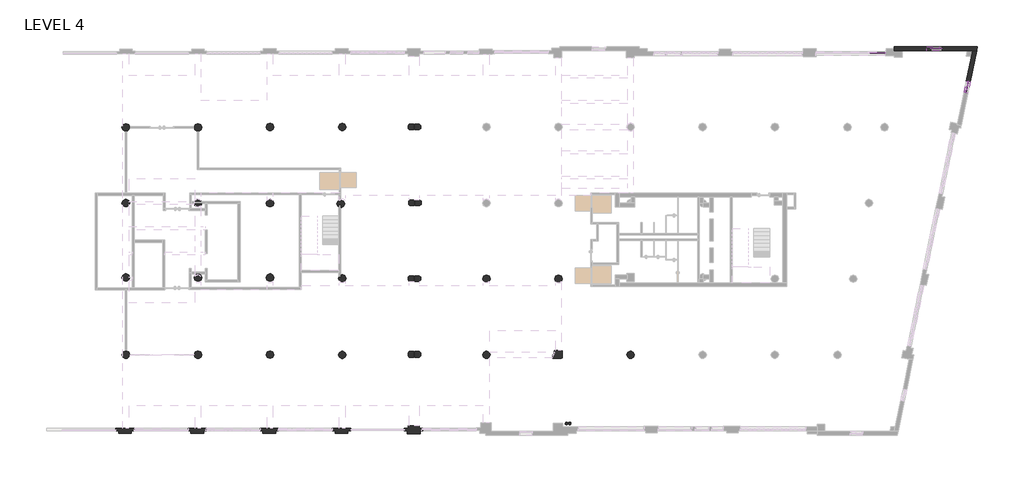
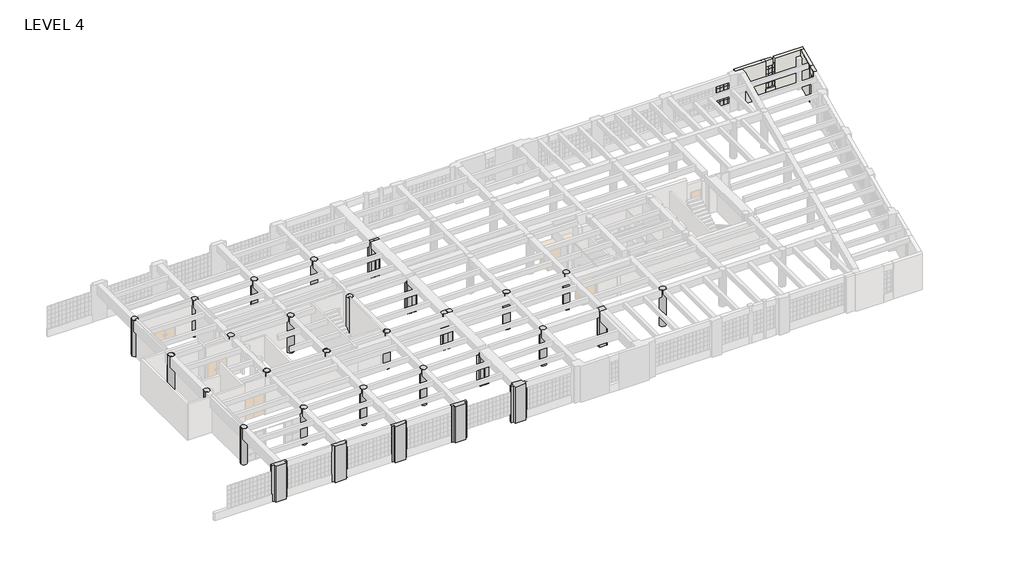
# One storey, part 25 of 26: 38 members, 38 plates, 32 columns, 6 walls.
"""IFC4 building model written with IfcOpenShell, lengths in millimetres."""

from ifc_helpers import new_model, si_unit, point, frame, frame_2d, origin, origin_with_axes, place, context, project, spatial, polyline, circle_curve, trimmed, segment, composite_curve, outline, extrude, faceted_brep, transform, mapped, element, save
from components import columns_2_columns_1_0376ba0d, columns_20_columns_1_f9736cae, columns_21_columns_1_8a92f6ab, columns_22_columns_1_6d6d6978, columns_23_columns_1_dc9aa2cf, columns_24_columns_24_349f5db5, columns_6_columns_1_e790766a, column_10b8ecd9, column_0297f9bf, member_3c10d71f, member_3d4b608b, member_653bb31e, member_038dcf1c, member_d9fec558, member_0e6c94ff, member_9ec6e97d, member_6e26db71, member_f7ce43e5, member_cc7f9b0f, system_panel_glazed_656c6057, system_panel_glazed_d8d4181f, system_panel_glazed_44deb75c, system_panel_glazed_c51966c8, system_panel_glazed_3772fe24, system_panel_glazed_6a4aaf88

model = new_model("IFC4")

# Units and contexts
model_context = context("Model", 3, world=origin())
ifc_project = project(units=[si_unit("LENGTHUNIT", "METRE", prefix="MILLI")], contexts=[model_context])

# Site, building, storey
site = spatial("IfcSite", under=ifc_project)
building = spatial("IfcBuilding", under=site)
storey = spatial("IfcBuildingStorey", under=building, Name="LEVEL 4", Elevation=0.0)

# Columns
placement = place(None, origin())
element("IfcColumn", 1, ObjectType="Columns 1 : Columns 1", at=placement, inside=storey, context=model_context, shape_type="SweptSolid", body=[
    extrude(outline(polyline([(-36641.1085473, 87424.7590237), (-36641.1085473, 87221.5590237), (-36860.878199, 87221.5590237), (-36860.878199, 87018.3590237), (-37876.878199, 87018.3590237), (-37876.878199, 87221.5590237), (-38095.2585473, 87221.5590237), (-38095.2585473, 87424.7590237), (-36641.1085473, 87424.7590237)])), origin_with_axes(), (0.0, 0.0, 1.0), 3657.6),
])
columns_2_columns_1_shape = columns_2_columns_1_0376ba0d(model_context)
element("IfcColumn", 2, ObjectType="Columns 2 : Columns 1", at=placement, inside=storey, context=model_context, shape_type="MappedRepresentation", body=[
    mapped(columns_2_columns_1_shape, transform((5710.5665946, -43.8001097, 0.0), x_axis=(1.0, 0.0, 0.0), y_axis=(0.0, 1.0, 0.0), z_axis=(0.0, 0.0, 1.0))),
])
columns_20_columns_1_shape = columns_20_columns_1_f9736cae(model_context)
element("IfcColumn", 3, ObjectType="Columns 20 : Columns 1", at=placement, inside=storey, context=model_context, shape_type="MappedRepresentation", body=[
    mapped(columns_20_columns_1_shape, transform((-2160.8740134, -5867.7349653, 0.0), x_axis=(1.0, 0.0, 0.0), y_axis=(0.0, 1.0, 0.0), z_axis=(0.0, 0.0, 1.0))),
])
columns_21_columns_1_shape = columns_21_columns_1_8a92f6ab(model_context)
element("IfcColumn", 4, ObjectType="Columns 21 : Columns 1", at=placement, inside=storey, context=model_context, shape_type="MappedRepresentation", body=[
    mapped(columns_21_columns_1_shape, transform((-2160.8740134, -11807.2754242, 0.0), x_axis=(1.0, 0.0, 0.0), y_axis=(0.0, 1.0, 0.0), z_axis=(0.0, 0.0, 1.0))),
])
columns_22_columns_1_shape = columns_22_columns_1_6d6d6978(model_context)
element("IfcColumn", 5, ObjectType="Columns 22 : Columns 1", at=placement, inside=storey, context=model_context, shape_type="MappedRepresentation", body=[
    mapped(columns_22_columns_1_shape, transform((-2160.8740134, -17977.6094606, 0.0), x_axis=(1.0, 0.0, 0.0), y_axis=(0.0, 1.0, 0.0), z_axis=(0.0, 0.0, 1.0))),
])
columns_23_columns_1_shape = columns_23_columns_1_dc9aa2cf(model_context)
element("IfcColumn", 6, ObjectType="Columns 23 : Columns 1", at=placement, inside=storey, context=model_context, shape_type="MappedRepresentation", body=[
    mapped(columns_23_columns_1_shape, transform((-2202.5068308, -37.6484485, 0.0), x_axis=(1.0, 0.0, 0.0), y_axis=(0.0, 1.0, 0.0), z_axis=(0.0, 0.0, 1.0))),
])
columns_24_columns_24_shape = columns_24_columns_24_349f5db5(model_context)
element("IfcColumn", 7, ObjectType="Columns 24 : Columns 24", at=placement, inside=storey, context=model_context, shape_type="MappedRepresentation", body=[
    mapped(columns_24_columns_24_shape, transform((-2805.4783095, 0.0, 0.0), x_axis=(1.0, 0.0, 0.0), y_axis=(0.0, 1.0, 0.0), z_axis=(0.0, 0.0, 1.0))),
])
element("IfcColumn", 8, ObjectType="Columns 29 : Columns 1", at=placement, inside=storey, context=model_context, shape_type="SweptSolid", body=[
    extrude(outline(polyline([(-42372.7709473, 87423.5651202), (-42372.7709473, 87220.3651202), (-42592.540599, 87220.3651202), (-42592.540599, 87017.1651202), (-43608.540599, 87017.1651202), (-43608.540599, 87220.3651202), (-43826.9209473, 87220.3651202), (-43826.9209473, 87423.5651202), (-42372.7709473, 87423.5651202)])), origin_with_axes(), (0.0, 0.0, 1.0), 3657.6),
])
element("IfcColumn", 9, ObjectType="Columns 3 : Columns 1", at=placement, inside=storey, context=model_context, shape_type="MappedRepresentation", body=[
    mapped(columns_2_columns_1_shape, transform((11434.5629123, -43.8001097, 0.0), x_axis=(1.0, 0.0, 0.0), y_axis=(0.0, 1.0, 0.0), z_axis=(0.0, 0.0, 1.0))),
])
columns_6_columns_1_shape = columns_6_columns_1_e790766a(model_context)
element("IfcColumn", 10, ObjectType="Columns 6 : Columns 1", at=placement, inside=storey, context=model_context, shape_type="MappedRepresentation", body=[
    mapped(columns_6_columns_1_shape, transform((0.0, -43.8001097, 0.0), x_axis=(1.0, 0.0, 0.0), y_axis=(0.0, 1.0, 0.0), z_axis=(0.0, 0.0, 1.0))),
])
element("IfcColumn", 11, ObjectType="Concrete-Round-Column : 24\"", at=placement, inside=storey, context=model_context, shape_type="SweptSolid", body=[
    extrude(outline(composite_curve([segment(trimmed(circle_curve(frame_2d((-37315.6509089, 93272.4591334)), 304.8), [point((-37620.4509089, 93272.4591334))], [point((-37010.8509089, 93272.4591334))], False, "CARTESIAN"), True, "CONTINUOUS"), segment(trimmed(circle_curve(frame_2d((-37315.6509089, 93272.4591334)), 304.8), [point((-37010.8509089, 93272.4591334))], [point((-37620.4509089, 93272.4591334))], False, "CARTESIAN"), True, "CONTINUOUS")], self_intersect=False)), origin_with_axes(), (0.0, 0.0, 1.0), 3657.6),
])
element("IfcColumn", 12, ObjectType="Concrete-Round-Column : 24\"", at=placement, inside=storey, context=model_context, shape_type="SweptSolid", body=[
    extrude(outline(composite_curve([segment(trimmed(circle_curve(frame_2d((-31600.6509089, 93272.4591334)), 304.8), [point((-31905.4509089, 93272.4591334))], [point((-31295.8509089, 93272.4591334))], False, "CARTESIAN"), True, "CONTINUOUS"), segment(trimmed(circle_curve(frame_2d((-31600.6509089, 93272.4591334)), 304.8), [point((-31295.8509089, 93272.4591334))], [point((-31905.4509089, 93272.4591334))], False, "CARTESIAN"), True, "CONTINUOUS")], self_intersect=False)), origin_with_axes(), (0.0, 0.0, 1.0), 3657.6),
])
element("IfcColumn", 13, ObjectType="Concrete-Round-Column : 24\"", at=placement, inside=storey, context=model_context, shape_type="SweptSolid", body=[
    extrude(outline(composite_curve([segment(trimmed(circle_curve(frame_2d((-25876.0685042, 93257.4589024)), 304.8), [point((-26180.8685042, 93257.4589024))], [point((-25571.2685042, 93257.4589024))], False, "CARTESIAN"), True, "CONTINUOUS"), segment(trimmed(circle_curve(frame_2d((-25876.0685042, 93257.4589024)), 304.8), [point((-25571.2685042, 93257.4589024))], [point((-26180.8685042, 93257.4589024))], False, "CARTESIAN"), True, "CONTINUOUS")], self_intersect=False)), origin_with_axes(), (0.0, 0.0, 1.0), 3657.6),
])
element("IfcColumn", 14, ObjectType="Concrete-Round-Column : 24\"", at=placement, inside=storey, context=model_context, shape_type="SweptSolid", body=[
    extrude(outline(composite_curve([segment(trimmed(circle_curve(frame_2d((-14455.6509089, 99290.3931698)), 304.8), [point((-14760.4509089, 99290.3931698))], [point((-14150.8509089, 99290.3931698))], False, "CARTESIAN"), True, "CONTINUOUS"), segment(trimmed(circle_curve(frame_2d((-14455.6509089, 99290.3931698)), 304.8), [point((-14150.8509089, 99290.3931698))], [point((-14760.4509089, 99290.3931698))], False, "CARTESIAN"), True, "CONTINUOUS")], self_intersect=False)), origin_with_axes(), (0.0, 0.0, 1.0), 3657.6),
])
column_shape = column_10b8ecd9(model_context)
element("IfcColumn", 15, ObjectType="Concrete-Round-Column : 24\"", at=placement, inside=storey, context=model_context, shape_type="MappedRepresentation", body=[
    mapped(column_shape, transform((-31600.6509089, 111331.8591334, 0.0), x_axis=(1.0, 0.0, 0.0), y_axis=(0.0, 1.0, 0.0), z_axis=(0.0, 0.0, 1.0))),
])
element("IfcColumn", 16, ObjectType="Concrete-Round-Column : 24\"", at=placement, inside=storey, context=model_context, shape_type="MappedRepresentation", body=[
    mapped(column_shape, transform((-25876.0685042, 111331.8591334, 0.0), x_axis=(1.0, 0.0, 0.0), y_axis=(0.0, 1.0, 0.0), z_axis=(0.0, 0.0, 1.0))),
])
element("IfcColumn", 17, ObjectType="Concrete-Round-Column : 24\"", at=placement, inside=storey, context=model_context, shape_type="MappedRepresentation", body=[
    mapped(column_shape, transform((-37315.6509089, 111312.5141363, 0.0), x_axis=(1.0, 0.0, 0.0), y_axis=(0.0, 1.0, 0.0), z_axis=(0.0, 0.0, 1.0))),
])
element("IfcColumn", 18, ObjectType="Concrete-Round-Column : 24\"", at=placement, inside=storey, context=model_context, shape_type="MappedRepresentation", body=[
    mapped(column_shape, transform((-25996.7185042, 105247.8684878, 0.0), x_axis=(1.0, 0.0, 0.0), y_axis=(0.0, 1.0, 0.0), z_axis=(0.0, 0.0, 1.0))),
])
element("IfcColumn", 19, ObjectType="Concrete-Round-Column : 24\"", at=placement, inside=storey, context=model_context, shape_type="MappedRepresentation", body=[
    mapped(column_shape, transform((-25876.0685042, 99338.4111751, 0.0), x_axis=(1.0, 0.0, 0.0), y_axis=(0.0, 1.0, 0.0), z_axis=(0.0, 0.0, 1.0))),
])
element("IfcColumn", 20, ObjectType="Concrete-Round-Column : 24\"", at=placement, inside=storey, context=model_context, shape_type="MappedRepresentation", body=[
    mapped(column_shape, transform((-14455.6509089, 93257.4589024, 0.0), x_axis=(1.0, 0.0, 0.0), y_axis=(0.0, 1.0, 0.0), z_axis=(0.0, 0.0, 1.0))),
])
element("IfcColumn", 21, ObjectType="Concrete-Round-Column : 24\"", at=placement, inside=storey, context=model_context, shape_type="MappedRepresentation", body=[
    mapped(column_shape, transform((-3020.3923152, 93257.4589024, 0.0), x_axis=(1.0, 0.0, 0.0), y_axis=(0.0, 1.0, 0.0), z_axis=(0.0, 0.0, 1.0))),
])
element("IfcColumn", 22, ObjectType="Concrete-Round-Column : 24\"", at=placement, inside=storey, context=model_context, shape_type="MappedRepresentation", body=[
    mapped(column_shape, transform((-8740.6509089, 99290.3931698, 0.0), x_axis=(1.0, 0.0, 0.0), y_axis=(0.0, 1.0, 0.0), z_axis=(0.0, 0.0, 1.0))),
])
element("IfcColumn", 23, ObjectType="Concrete-Round-Column : 24\"", at=placement, inside=storey, context=model_context, shape_type="MappedRepresentation", body=[
    mapped(column_shape, transform((-37315.6509089, 105303.3164461, 0.0), x_axis=(1.0, 0.0, 0.0), y_axis=(0.0, 1.0, 0.0), z_axis=(0.0, 0.0, 1.0))),
])
element("IfcColumn", 24, ObjectType="Concrete-Round-Column : 24\"", at=placement, inside=storey, context=model_context, shape_type="MappedRepresentation", body=[
    mapped(column_shape, transform((-37315.6509089, 99393.8591334, 0.0), x_axis=(1.0, 0.0, 0.0), y_axis=(0.0, 1.0, 0.0), z_axis=(0.0, 0.0, 1.0))),
])
element("IfcColumn", 25, ObjectType="Concrete-Round-Column : 24\"", at=placement, inside=storey, context=model_context, shape_type="MappedRepresentation", body=[
    mapped(column_shape, transform((-31600.6509089, 105303.3164461, 0.0), x_axis=(1.0, 0.0, 0.0), y_axis=(0.0, 1.0, 0.0), z_axis=(0.0, 0.0, 1.0))),
])
element("IfcColumn", 26, ObjectType="Concrete-Round-Column : 24\"", at=placement, inside=storey, context=model_context, shape_type="MappedRepresentation", body=[
    mapped(column_shape, transform((-31600.6509089, 99393.8591334, 0.0), x_axis=(1.0, 0.0, 0.0), y_axis=(0.0, 1.0, 0.0), z_axis=(0.0, 0.0, 1.0))),
])
element("IfcColumn", 27, ObjectType="Concrete-Round-Column : 24\"", at=placement, inside=storey, context=model_context, shape_type="MappedRepresentation", body=[
    mapped(column_shape, transform((-43030.6509089, 93272.4591334, 0.0), x_axis=(1.0, 0.0, 0.0), y_axis=(0.0, 1.0, 0.0), z_axis=(0.0, 0.0, 1.0))),
])
element("IfcColumn", 28, ObjectType="Concrete-Round-Column : 24\"", at=placement, inside=storey, context=model_context, shape_type="MappedRepresentation", body=[
    mapped(column_shape, transform((-43030.6509089, 111312.5141363, 0.0), x_axis=(1.0, 0.0, 0.0), y_axis=(0.0, 1.0, 0.0), z_axis=(0.0, 0.0, 1.0))),
])
element("IfcColumn", 29, ObjectType="Concrete-Round-Column : 24\"", at=placement, inside=storey, context=model_context, shape_type="MappedRepresentation", body=[
    mapped(column_shape, transform((-43030.6509089, 105303.3164461, 0.0), x_axis=(1.0, 0.0, 0.0), y_axis=(0.0, 1.0, 0.0), z_axis=(0.0, 0.0, 1.0))),
])
element("IfcColumn", 30, ObjectType="Concrete-Round-Column : 24\"", at=placement, inside=storey, context=model_context, shape_type="MappedRepresentation", body=[
    mapped(column_shape, transform((-43030.6509089, 99393.8591334, 0.0), x_axis=(1.0, 0.0, 0.0), y_axis=(0.0, 1.0, 0.0), z_axis=(0.0, 0.0, 1.0))),
])
column_2_shape = column_0297f9bf(model_context)
element("IfcColumn", 31, ObjectType="Concrete-Round-Column : 8\"", at=placement, inside=storey, context=model_context, shape_type="MappedRepresentation", body=[
    mapped(column_2_shape, transform((-8103.3691778, 87817.5141363, 0.0), x_axis=(1.0, 0.0, 0.0), y_axis=(0.0, 1.0, 0.0), z_axis=(0.0, 0.0, 1.0))),
])
element("IfcColumn", 32, ObjectType="Concrete-Round-Column : 8\"", at=placement, inside=storey, context=model_context, shape_type="MappedRepresentation", body=[
    mapped(column_2_shape, transform((-7849.3691778, 87817.5141363, 0.0), x_axis=(1.0, 0.0, 0.0), y_axis=(0.0, 1.0, 0.0), z_axis=(0.0, 0.0, 1.0))),
])

# Members
member_shape = member_3c10d71f(model_context)
element("IfcMember", 33, ObjectType="Circular Mullion : 1 1/4\" Square", at=placement, inside=storey, context=model_context, shape_type="MappedRepresentation", body=[
    mapped(member_shape, transform((23701.8264621, 114747.273295, 3060.7), x_axis=(0.0, 0.0, 1.0), y_axis=(0.9793398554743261, -0.2022212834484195, 0.0), z_axis=(0.2022212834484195, 0.9793398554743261, 0.0))),
])
element("IfcMember", 34, ObjectType="Circular Mullion : 1 1/4\" Square", at=placement, inside=storey, context=model_context, shape_type="MappedRepresentation", body=[
    mapped(member_shape, transform((23635.0529943, 114423.8952747, 800.1), x_axis=(0.0, 0.0, -1.0), y_axis=(0.9793398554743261, -0.2022212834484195, 0.0), z_axis=(-0.2022212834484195, -0.9793398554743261, 0.0))),
])
member_2_shape = member_3d4b608b(model_context)
element("IfcMember", 35, ObjectType="Circular Mullion : 1 1/4\" Square", at=placement, inside=storey, context=model_context, shape_type="MappedRepresentation", body=[
    mapped(member_2_shape, transform((23632.484784, 114411.4576586, 800.1), x_axis=(0.2022212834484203, 0.979339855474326, 0.0), y_axis=(0.979339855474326, -0.2022212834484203, 0.0), z_axis=(0.0, 0.0, -1.0))),
])
element("IfcMember", 36, ObjectType="Circular Mullion : 1 1/4\" Square", at=placement, inside=storey, context=model_context, shape_type="MappedRepresentation", body=[
    mapped(member_2_shape, transform((23704.3946724, 114759.7109112, 800.1), x_axis=(0.2022212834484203, 0.979339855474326, 0.0), y_axis=(0.979339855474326, -0.2022212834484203, 0.0), z_axis=(0.0, 0.0, -1.0))),
])
member_3_shape = member_653bb31e(model_context)
element("IfcMember", 37, ObjectType="Circular Mullion : 1 1/4\" Square", at=placement, inside=storey, context=model_context, shape_type="MappedRepresentation", body=[
    mapped(member_3_shape, transform((23701.8264621, 114747.273295, 1257.3), x_axis=(0.0, 0.0, 1.0), y_axis=(0.9793398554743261, -0.2022212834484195, 0.0), z_axis=(0.2022212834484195, 0.9793398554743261, 0.0))),
])
element("IfcMember", 38, ObjectType="Circular Mullion : 1 1/4\" Square", at=placement, inside=storey, context=model_context, shape_type="MappedRepresentation", body=[
    mapped(member_3_shape, transform((23701.8264621, 114747.273295, 1714.5), x_axis=(0.0, 0.0, 1.0), y_axis=(0.9793398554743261, -0.2022212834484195, 0.0), z_axis=(0.2022212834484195, 0.9793398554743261, 0.0))),
])
element("IfcMember", 39, ObjectType="Circular Mullion : 1 1/4\" Square", at=placement, inside=storey, context=model_context, shape_type="MappedRepresentation", body=[
    mapped(member_3_shape, transform((23701.8264621, 114747.273295, 2171.7), x_axis=(0.0, 0.0, 1.0), y_axis=(0.9793398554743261, -0.2022212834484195, 0.0), z_axis=(0.2022212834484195, 0.9793398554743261, 0.0))),
])
element("IfcMember", 40, ObjectType="Circular Mullion : 1 1/4\" Square", at=placement, inside=storey, context=model_context, shape_type="MappedRepresentation", body=[
    mapped(member_3_shape, transform((23701.8264621, 114747.273295, 2628.9), x_axis=(0.0, 0.0, 1.0), y_axis=(0.9793398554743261, -0.2022212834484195, 0.0), z_axis=(0.2022212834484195, 0.9793398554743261, 0.0))),
])
member_4_shape = member_038dcf1c(model_context)
element("IfcMember", 41, ObjectType="Circular Mullion : 1 1/4\" Square", at=placement, inside=storey, context=model_context, shape_type="MappedRepresentation", body=[
    mapped(member_4_shape, transform((23745.4860371, 114958.7127695, 800.1), x_axis=(0.2022212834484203, 0.979339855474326, 0.0), y_axis=(0.979339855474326, -0.2022212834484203, 0.0), z_axis=(0.0, 0.0, -1.0))),
])
element("IfcMember", 42, ObjectType="Circular Mullion : 1 1/4\" Square", at=placement, inside=storey, context=model_context, shape_type="MappedRepresentation", body=[
    mapped(member_2_shape, transform((23632.484784, 114411.4576586, 2171.7), x_axis=(0.2022212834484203, 0.979339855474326, 0.0), y_axis=(0.979339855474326, -0.2022212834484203, 0.0), z_axis=(0.0, 0.0, -1.0))),
])
element("IfcMember", 43, ObjectType="Circular Mullion : 1 1/4\" Square", at=placement, inside=storey, context=model_context, shape_type="MappedRepresentation", body=[
    mapped(member_2_shape, transform((23632.484784, 114411.4576586, 1714.5), x_axis=(0.2022212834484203, 0.979339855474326, 0.0), y_axis=(0.979339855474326, -0.2022212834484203, 0.0), z_axis=(0.0, 0.0, -1.0))),
])
element("IfcMember", 44, ObjectType="Circular Mullion : 1 1/4\" Square", at=placement, inside=storey, context=model_context, shape_type="MappedRepresentation", body=[
    mapped(member_2_shape, transform((23632.484784, 114411.4576586, 1257.3), x_axis=(0.2022212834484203, 0.979339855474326, 0.0), y_axis=(0.979339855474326, -0.2022212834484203, 0.0), z_axis=(0.0, 0.0, -1.0))),
])
element("IfcMember", 45, ObjectType="Circular Mullion : 1 1/4\" Square", at=placement, inside=storey, context=model_context, shape_type="MappedRepresentation", body=[
    mapped(member_2_shape, transform((23704.3946724, 114759.7109112, 2171.7), x_axis=(0.2022212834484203, 0.979339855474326, 0.0), y_axis=(0.979339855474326, -0.2022212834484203, 0.0), z_axis=(0.0, 0.0, -1.0))),
])
element("IfcMember", 46, ObjectType="Circular Mullion : 1 1/4\" Square", at=placement, inside=storey, context=model_context, shape_type="MappedRepresentation", body=[
    mapped(member_2_shape, transform((23704.3946724, 114759.7109112, 1714.5), x_axis=(0.2022212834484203, 0.979339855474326, 0.0), y_axis=(0.979339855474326, -0.2022212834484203, 0.0), z_axis=(0.0, 0.0, -1.0))),
])
element("IfcMember", 47, ObjectType="Circular Mullion : 1 1/4\" Square", at=placement, inside=storey, context=model_context, shape_type="MappedRepresentation", body=[
    mapped(member_2_shape, transform((23704.3946724, 114759.7109112, 1257.3), x_axis=(0.2022212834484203, 0.979339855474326, 0.0), y_axis=(0.979339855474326, -0.2022212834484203, 0.0), z_axis=(0.0, 0.0, -1.0))),
])
element("IfcMember", 48, ObjectType="Circular Mullion : 1 1/4\" Square", at=placement, inside=storey, context=model_context, shape_type="MappedRepresentation", body=[
    mapped(member_4_shape, transform((23745.4860371, 114958.7127695, 2171.7), x_axis=(0.2022212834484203, 0.979339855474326, 0.0), y_axis=(0.979339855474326, -0.2022212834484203, 0.0), z_axis=(0.0, 0.0, -1.0))),
])
element("IfcMember", 49, ObjectType="Circular Mullion : 1 1/4\" Square", at=placement, inside=storey, context=model_context, shape_type="MappedRepresentation", body=[
    mapped(member_4_shape, transform((23745.4860371, 114958.7127695, 1714.5), x_axis=(0.2022212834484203, 0.979339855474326, 0.0), y_axis=(0.979339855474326, -0.2022212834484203, 0.0), z_axis=(0.0, 0.0, -1.0))),
])
element("IfcMember", 50, ObjectType="Circular Mullion : 1 1/4\" Square", at=placement, inside=storey, context=model_context, shape_type="MappedRepresentation", body=[
    mapped(member_4_shape, transform((23745.4860371, 114958.7127695, 1257.3), x_axis=(0.2022212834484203, 0.979339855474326, 0.0), y_axis=(0.979339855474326, -0.2022212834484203, 0.0), z_axis=(0.0, 0.0, -1.0))),
])
member_5_shape = member_d9fec558(model_context)
element("IfcMember", 51, ObjectType="Circular Mullion : 1 1/4\" Square", at=placement, inside=storey, context=model_context, shape_type="MappedRepresentation", body=[
    mapped(member_5_shape, transform((23632.484784, 114411.4576586, 2628.9), x_axis=(0.2022212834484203, 0.979339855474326, 0.0), y_axis=(0.979339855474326, -0.2022212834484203, 0.0), z_axis=(0.0, 0.0, -1.0))),
])
element("IfcMember", 52, ObjectType="Circular Mullion : 1 1/4\" Square", at=placement, inside=storey, context=model_context, shape_type="MappedRepresentation", body=[
    mapped(member_5_shape, transform((23704.3946724, 114759.7109112, 2628.9), x_axis=(0.2022212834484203, 0.979339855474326, 0.0), y_axis=(0.979339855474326, -0.2022212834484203, 0.0), z_axis=(0.0, 0.0, -1.0))),
])
member_6_shape = member_0e6c94ff(model_context)
element("IfcMember", 53, ObjectType="Circular Mullion : 1 1/4\" Square", at=placement, inside=storey, context=model_context, shape_type="MappedRepresentation", body=[
    mapped(member_6_shape, transform((23745.4860371, 114958.7127695, 2628.9), x_axis=(0.2022212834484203, 0.979339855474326, 0.0), y_axis=(0.979339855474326, -0.2022212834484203, 0.0), z_axis=(0.0, 0.0, -1.0))),
])
element("IfcMember", 54, ObjectType="Circular Mullion : 1 1/4\" Square", at=placement, inside=storey, context=model_context, shape_type="MappedRepresentation", body=[
    mapped(member_4_shape, transform((23560.5748955, 114063.2044056, 2628.9), x_axis=(-0.2022212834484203, -0.979339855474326, 0.0), y_axis=(0.979339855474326, -0.2022212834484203, 0.0), z_axis=(0.0, 0.0, 1.0))),
])
element("IfcMember", 55, ObjectType="Circular Mullion : 1 1/4\" Square", at=placement, inside=storey, context=model_context, shape_type="MappedRepresentation", body=[
    mapped(member_4_shape, transform((23560.5748955, 114063.2044056, 2171.7), x_axis=(-0.2022212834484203, -0.979339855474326, 0.0), y_axis=(0.979339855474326, -0.2022212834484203, 0.0), z_axis=(0.0, 0.0, 1.0))),
])
element("IfcMember", 56, ObjectType="Circular Mullion : 1 1/4\" Square", at=placement, inside=storey, context=model_context, shape_type="MappedRepresentation", body=[
    mapped(member_4_shape, transform((23560.5748955, 114063.2044056, 1714.5), x_axis=(-0.2022212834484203, -0.979339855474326, 0.0), y_axis=(0.979339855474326, -0.2022212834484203, 0.0), z_axis=(0.0, 0.0, 1.0))),
])
element("IfcMember", 57, ObjectType="Circular Mullion : 1 1/4\" Square", at=placement, inside=storey, context=model_context, shape_type="MappedRepresentation", body=[
    mapped(member_4_shape, transform((23560.5748955, 114063.2044056, 1257.3), x_axis=(-0.2022212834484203, -0.979339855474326, 0.0), y_axis=(0.979339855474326, -0.2022212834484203, 0.0), z_axis=(0.0, 0.0, 1.0))),
])
element("IfcMember", 58, ObjectType="Circular Mullion : 1 1/4\" Square", at=placement, inside=storey, context=model_context, shape_type="MappedRepresentation", body=[
    mapped(member_6_shape, transform((23560.5748955, 114063.2044056, 3060.7), x_axis=(-0.2022212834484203, -0.979339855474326, 0.0), y_axis=(0.979339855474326, -0.2022212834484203, 0.0), z_axis=(0.0, 0.0, 1.0))),
])
member_7_shape = member_9ec6e97d(model_context)
element("IfcMember", 59, ObjectType="Circular Mullion : 1 1/4\" Square", at=placement, inside=storey, context=model_context, shape_type="MappedRepresentation", body=[
    mapped(member_7_shape, transform((23629.9165737, 114399.0200424, 3060.7), x_axis=(0.0, 0.0, 1.0), y_axis=(0.9793398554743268, -0.2022212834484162, 0.0), z_axis=(0.2022212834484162, 0.9793398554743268, 0.0))),
])
element("IfcMember", 60, ObjectType="Circular Mullion : 1 1/4\" Square", at=placement, inside=storey, context=model_context, shape_type="MappedRepresentation", body=[
    mapped(member_7_shape, transform((23565.7113161, 114088.079638, 800.1), x_axis=(0.0, 0.0, -1.0), y_axis=(0.9793398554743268, -0.2022212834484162, 0.0), z_axis=(-0.2022212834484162, -0.9793398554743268, 0.0))),
])
member_8_shape = member_6e26db71(model_context)
element("IfcMember", 61, ObjectType="Circular Mullion : 1 1/4\" Square", at=placement, inside=storey, context=model_context, shape_type="MappedRepresentation", body=[
    mapped(member_8_shape, transform((23629.9165737, 114399.0200424, 1257.3), x_axis=(0.0, 0.0, 1.0), y_axis=(0.9793398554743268, -0.2022212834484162, 0.0), z_axis=(0.2022212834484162, 0.9793398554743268, 0.0))),
])
element("IfcMember", 62, ObjectType="Circular Mullion : 1 1/4\" Square", at=placement, inside=storey, context=model_context, shape_type="MappedRepresentation", body=[
    mapped(member_8_shape, transform((23629.9165737, 114399.0200424, 1714.5), x_axis=(0.0, 0.0, 1.0), y_axis=(0.9793398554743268, -0.2022212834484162, 0.0), z_axis=(0.2022212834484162, 0.9793398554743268, 0.0))),
])
element("IfcMember", 63, ObjectType="Circular Mullion : 1 1/4\" Square", at=placement, inside=storey, context=model_context, shape_type="MappedRepresentation", body=[
    mapped(member_8_shape, transform((23629.9165737, 114399.0200424, 2171.7), x_axis=(0.0, 0.0, 1.0), y_axis=(0.9793398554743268, -0.2022212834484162, 0.0), z_axis=(0.2022212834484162, 0.9793398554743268, 0.0))),
])
element("IfcMember", 64, ObjectType="Circular Mullion : 1 1/4\" Square", at=placement, inside=storey, context=model_context, shape_type="MappedRepresentation", body=[
    mapped(member_8_shape, transform((23629.9165737, 114399.0200424, 2628.9), x_axis=(0.0, 0.0, 1.0), y_axis=(0.9793398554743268, -0.2022212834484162, 0.0), z_axis=(0.2022212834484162, 0.9793398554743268, 0.0))),
])
member_9_shape = member_f7ce43e5(model_context)
element("IfcMember", 65, ObjectType="Circular Mullion : 1 1/4\" Square", at=placement, inside=storey, context=model_context, shape_type="MappedRepresentation", body=[
    mapped(member_9_shape, transform((23740.3496165, 114933.8375372, 3060.7), x_axis=(0.0, 0.0, 1.0), y_axis=(0.9793398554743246, -0.2022212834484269, 0.0), z_axis=(0.2022212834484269, 0.9793398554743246, 0.0))),
])
element("IfcMember", 66, ObjectType="Circular Mullion : 1 1/4\" Square", at=placement, inside=storey, context=model_context, shape_type="MappedRepresentation", body=[
    mapped(member_9_shape, transform((23706.9628827, 114772.1485273, 800.1), x_axis=(0.0, 0.0, -1.0), y_axis=(0.9793398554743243, -0.2022212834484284, 0.0), z_axis=(-0.20222128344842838, -0.9793398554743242, 0.0))),
])
member_10_shape = member_cc7f9b0f(model_context)
element("IfcMember", 67, ObjectType="Circular Mullion : 1 1/4\" Square", at=placement, inside=storey, context=model_context, shape_type="MappedRepresentation", body=[
    mapped(member_10_shape, transform((23740.3496165, 114933.8375372, 1257.3), x_axis=(0.0, 0.0, 1.0), y_axis=(0.9793398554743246, -0.2022212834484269, 0.0), z_axis=(0.2022212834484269, 0.9793398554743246, 0.0))),
])
element("IfcMember", 68, ObjectType="Circular Mullion : 1 1/4\" Square", at=placement, inside=storey, context=model_context, shape_type="MappedRepresentation", body=[
    mapped(member_10_shape, transform((23740.3496165, 114933.8375372, 1714.5), x_axis=(0.0, 0.0, 1.0), y_axis=(0.9793398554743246, -0.2022212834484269, 0.0), z_axis=(0.2022212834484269, 0.9793398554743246, 0.0))),
])
element("IfcMember", 69, ObjectType="Circular Mullion : 1 1/4\" Square", at=placement, inside=storey, context=model_context, shape_type="MappedRepresentation", body=[
    mapped(member_10_shape, transform((23740.3496165, 114933.8375372, 2171.7), x_axis=(0.0, 0.0, 1.0), y_axis=(0.9793398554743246, -0.2022212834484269, 0.0), z_axis=(0.2022212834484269, 0.9793398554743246, 0.0))),
])
element("IfcMember", 70, ObjectType="Circular Mullion : 1 1/4\" Square", at=placement, inside=storey, context=model_context, shape_type="MappedRepresentation", body=[
    mapped(member_10_shape, transform((23740.3496165, 114933.8375372, 2628.9), x_axis=(0.0, 0.0, 1.0), y_axis=(0.9793398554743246, -0.2022212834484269, 0.0), z_axis=(0.2022212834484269, 0.9793398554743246, 0.0))),
])

# Plates
system_panel_glazed_shape = system_panel_glazed_656c6057(model_context)
element("IfcPlate", 71, ObjectType="System Panel : Glazed", at=placement, inside=storey, context=model_context, shape_type="MappedRepresentation", body=[
    mapped(system_panel_glazed_shape, transform((20944.2181143, 117544.7555855, 800.1), x_axis=(1.0, 0.0, 0.0), y_axis=(0.0, 1.0, 0.0), z_axis=(0.0, 0.0, 1.0))),
])
element("IfcPlate", 72, ObjectType="System Panel : Glazed", at=placement, inside=storey, context=model_context, shape_type="MappedRepresentation", body=[
    mapped(system_panel_glazed_shape, transform((16096.9290147, 117175.0421498, 800.1), x_axis=(1.0, 0.0, 0.0), y_axis=(0.0, 1.0, 0.0), z_axis=(0.0, 0.0, 1.0))),
])
element("IfcPlate", 73, ObjectType="System Panel : Glazed", at=placement, inside=storey, context=model_context, shape_type="MappedRepresentation", body=[
    mapped(system_panel_glazed_shape, transform((16096.9290147, 117175.0421498, 1257.3), x_axis=(1.0, 0.0, 0.0), y_axis=(0.0, 1.0, 0.0), z_axis=(0.0, 0.0, 1.0))),
])
element("IfcPlate", 74, ObjectType="System Panel : Glazed", at=placement, inside=storey, context=model_context, shape_type="MappedRepresentation", body=[
    mapped(system_panel_glazed_shape, transform((16096.9290147, 117175.0421498, 1714.5), x_axis=(1.0, 0.0, 0.0), y_axis=(0.0, 1.0, 0.0), z_axis=(0.0, 0.0, 1.0))),
])
element("IfcPlate", 75, ObjectType="System Panel : Glazed", at=placement, inside=storey, context=model_context, shape_type="MappedRepresentation", body=[
    mapped(system_panel_glazed_shape, transform((16096.9290147, 117175.0421498, 2171.7), x_axis=(1.0, 0.0, 0.0), y_axis=(0.0, 1.0, 0.0), z_axis=(0.0, 0.0, 1.0))),
])
element("IfcPlate", 76, ObjectType="System Panel : Glazed", at=placement, inside=storey, context=model_context, shape_type="MappedRepresentation", body=[
    mapped(system_panel_glazed_shape, transform((21299.8181144, 117544.7555855, 800.1), x_axis=(1.0, 0.0, 0.0), y_axis=(0.0, 1.0, 0.0), z_axis=(0.0, 0.0, 1.0))),
])
element("IfcPlate", 77, ObjectType="System Panel : Glazed", at=placement, inside=storey, context=model_context, shape_type="MappedRepresentation", body=[
    mapped(system_panel_glazed_shape, transform((20944.2181143, 117544.7555855, 1257.3), x_axis=(1.0, 0.0, 0.0), y_axis=(0.0, 1.0, 0.0), z_axis=(0.0, 0.0, 1.0))),
])
element("IfcPlate", 78, ObjectType="System Panel : Glazed", at=placement, inside=storey, context=model_context, shape_type="MappedRepresentation", body=[
    mapped(system_panel_glazed_shape, transform((21299.8181144, 117544.7555855, 1257.3), x_axis=(1.0, 0.0, 0.0), y_axis=(0.0, 1.0, 0.0), z_axis=(0.0, 0.0, 1.0))),
])
element("IfcPlate", 79, ObjectType="System Panel : Glazed", at=placement, inside=storey, context=model_context, shape_type="MappedRepresentation", body=[
    mapped(system_panel_glazed_shape, transform((20944.2181143, 117544.7555855, 1714.5), x_axis=(1.0, 0.0, 0.0), y_axis=(0.0, 1.0, 0.0), z_axis=(0.0, 0.0, 1.0))),
])
element("IfcPlate", 80, ObjectType="System Panel : Glazed", at=placement, inside=storey, context=model_context, shape_type="MappedRepresentation", body=[
    mapped(system_panel_glazed_shape, transform((21299.8181144, 117544.7555855, 1714.5), x_axis=(1.0, 0.0, 0.0), y_axis=(0.0, 1.0, 0.0), z_axis=(0.0, 0.0, 1.0))),
])
element("IfcPlate", 81, ObjectType="System Panel : Glazed", at=placement, inside=storey, context=model_context, shape_type="MappedRepresentation", body=[
    mapped(system_panel_glazed_shape, transform((20944.2181143, 117544.7555855, 2171.7), x_axis=(1.0, 0.0, 0.0), y_axis=(0.0, 1.0, 0.0), z_axis=(0.0, 0.0, 1.0))),
])
element("IfcPlate", 82, ObjectType="System Panel : Glazed", at=placement, inside=storey, context=model_context, shape_type="MappedRepresentation", body=[
    mapped(system_panel_glazed_shape, transform((21299.8181144, 117544.7555855, 2171.7), x_axis=(1.0, 0.0, 0.0), y_axis=(0.0, 1.0, 0.0), z_axis=(0.0, 0.0, 1.0))),
])
element("IfcPlate", 83, ObjectType="System Panel : Glazed", at=placement, inside=storey, context=model_context, shape_type="MappedRepresentation", body=[
    mapped(system_panel_glazed_shape, transform((16452.5290147, 117175.0421498, 800.1), x_axis=(1.0, 0.0, 0.0), y_axis=(0.0, 1.0, 0.0), z_axis=(0.0, 0.0, 1.0))),
])
element("IfcPlate", 84, ObjectType="System Panel : Glazed", at=placement, inside=storey, context=model_context, shape_type="MappedRepresentation", body=[
    mapped(system_panel_glazed_shape, transform((16452.5290147, 117175.0421498, 1257.3), x_axis=(1.0, 0.0, 0.0), y_axis=(0.0, 1.0, 0.0), z_axis=(0.0, 0.0, 1.0))),
])
element("IfcPlate", 85, ObjectType="System Panel : Glazed", at=placement, inside=storey, context=model_context, shape_type="MappedRepresentation", body=[
    mapped(system_panel_glazed_shape, transform((16452.5290147, 117175.0421498, 1714.5), x_axis=(1.0, 0.0, 0.0), y_axis=(0.0, 1.0, 0.0), z_axis=(0.0, 0.0, 1.0))),
])
element("IfcPlate", 86, ObjectType="System Panel : Glazed", at=placement, inside=storey, context=model_context, shape_type="MappedRepresentation", body=[
    mapped(system_panel_glazed_shape, transform((16452.5290147, 117175.0421498, 2171.7), x_axis=(1.0, 0.0, 0.0), y_axis=(0.0, 1.0, 0.0), z_axis=(0.0, 0.0, 1.0))),
])
element("IfcPlate", 87, ObjectType="System Panel : Glazed", at=placement, inside=storey, context=model_context, shape_type="MappedRepresentation", body=[
    mapped(system_panel_glazed_shape, transform((16808.1290147, 117175.0421498, 800.1), x_axis=(1.0, 0.0, 0.0), y_axis=(0.0, 1.0, 0.0), z_axis=(0.0, 0.0, 1.0))),
])
element("IfcPlate", 88, ObjectType="System Panel : Glazed", at=placement, inside=storey, context=model_context, shape_type="MappedRepresentation", body=[
    mapped(system_panel_glazed_shape, transform((16808.1290147, 117175.0421498, 1257.3), x_axis=(1.0, 0.0, 0.0), y_axis=(0.0, 1.0, 0.0), z_axis=(0.0, 0.0, 1.0))),
])
element("IfcPlate", 89, ObjectType="System Panel : Glazed", at=placement, inside=storey, context=model_context, shape_type="MappedRepresentation", body=[
    mapped(system_panel_glazed_shape, transform((16808.1290147, 117175.0421498, 1714.5), x_axis=(1.0, 0.0, 0.0), y_axis=(0.0, 1.0, 0.0), z_axis=(0.0, 0.0, 1.0))),
])
element("IfcPlate", 90, ObjectType="System Panel : Glazed", at=placement, inside=storey, context=model_context, shape_type="MappedRepresentation", body=[
    mapped(system_panel_glazed_shape, transform((16808.1290147, 117175.0421498, 2171.7), x_axis=(1.0, 0.0, 0.0), y_axis=(0.0, 1.0, 0.0), z_axis=(0.0, 0.0, 1.0))),
])
system_panel_glazed_2_shape = system_panel_glazed_d8d4181f(model_context)
element("IfcPlate", 91, ObjectType="System Panel : Glazed", at=placement, inside=storey, context=model_context, shape_type="MappedRepresentation", body=[
    mapped(system_panel_glazed_2_shape, transform((17075.1289529, 117175.0421498, 800.1), x_axis=(1.0, 0.0, 0.0), y_axis=(0.0, 1.0, 0.0), z_axis=(0.0, 0.0, 1.0))),
])
element("IfcPlate", 92, ObjectType="System Panel : Glazed", at=placement, inside=storey, context=model_context, shape_type="MappedRepresentation", body=[
    mapped(system_panel_glazed_2_shape, transform((17075.1289529, 117175.0421498, 1257.3), x_axis=(1.0, 0.0, 0.0), y_axis=(0.0, 1.0, 0.0), z_axis=(0.0, 0.0, 1.0))),
])
element("IfcPlate", 93, ObjectType="System Panel : Glazed", at=placement, inside=storey, context=model_context, shape_type="MappedRepresentation", body=[
    mapped(system_panel_glazed_2_shape, transform((17075.1289529, 117175.0421498, 1714.5), x_axis=(1.0, 0.0, 0.0), y_axis=(0.0, 1.0, 0.0), z_axis=(0.0, 0.0, 1.0))),
])
element("IfcPlate", 94, ObjectType="System Panel : Glazed", at=placement, inside=storey, context=model_context, shape_type="MappedRepresentation", body=[
    mapped(system_panel_glazed_2_shape, transform((17075.1289529, 117175.0421498, 2171.7), x_axis=(1.0, 0.0, 0.0), y_axis=(0.0, 1.0, 0.0), z_axis=(0.0, 0.0, 1.0))),
])
system_panel_glazed_3_shape = system_panel_glazed_44deb75c(model_context)
element("IfcPlate", 95, ObjectType="System Panel : Glazed", at=placement, inside=storey, context=model_context, shape_type="MappedRepresentation", body=[
    mapped(system_panel_glazed_3_shape, transform((16096.9290147, 117175.0421498, 2628.9), x_axis=(1.0, 0.0, 0.0), y_axis=(0.0, 1.0, 0.0), z_axis=(0.0, 0.0, 1.0))),
])
element("IfcPlate", 96, ObjectType="System Panel : Glazed", at=placement, inside=storey, context=model_context, shape_type="MappedRepresentation", body=[
    mapped(system_panel_glazed_3_shape, transform((20944.2181143, 117544.7555855, 2628.9), x_axis=(1.0, 0.0, 0.0), y_axis=(0.0, 1.0, 0.0), z_axis=(0.0, 0.0, 1.0))),
])
element("IfcPlate", 97, ObjectType="System Panel : Glazed", at=placement, inside=storey, context=model_context, shape_type="MappedRepresentation", body=[
    mapped(system_panel_glazed_3_shape, transform((21299.8181144, 117544.7555855, 2628.9), x_axis=(1.0, 0.0, 0.0), y_axis=(0.0, 1.0, 0.0), z_axis=(0.0, 0.0, 1.0))),
])
element("IfcPlate", 98, ObjectType="System Panel : Glazed", at=placement, inside=storey, context=model_context, shape_type="MappedRepresentation", body=[
    mapped(system_panel_glazed_3_shape, transform((23596.5298397, 114237.3310321, 2628.9), x_axis=(0.2022212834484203, 0.979339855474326, 0.0), y_axis=(-0.979339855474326, 0.2022212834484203, 0.0), z_axis=(0.0, 0.0, 1.0))),
])
element("IfcPlate", 99, ObjectType="System Panel : Glazed", at=placement, inside=storey, context=model_context, shape_type="MappedRepresentation", body=[
    mapped(system_panel_glazed_3_shape, transform((23668.4397282, 114585.5842849, 2628.9), x_axis=(0.2022212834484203, 0.979339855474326, 0.0), y_axis=(-0.979339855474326, 0.2022212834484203, 0.0), z_axis=(0.0, 0.0, 1.0))),
])
element("IfcPlate", 100, ObjectType="System Panel : Glazed", at=placement, inside=storey, context=model_context, shape_type="MappedRepresentation", body=[
    mapped(system_panel_glazed_3_shape, transform((16452.5290147, 117175.0421498, 2628.9), x_axis=(1.0, 0.0, 0.0), y_axis=(0.0, 1.0, 0.0), z_axis=(0.0, 0.0, 1.0))),
])
element("IfcPlate", 101, ObjectType="System Panel : Glazed", at=placement, inside=storey, context=model_context, shape_type="MappedRepresentation", body=[
    mapped(system_panel_glazed_3_shape, transform((16808.1290147, 117175.0421498, 2628.9), x_axis=(1.0, 0.0, 0.0), y_axis=(0.0, 1.0, 0.0), z_axis=(0.0, 0.0, 1.0))),
])
system_panel_glazed_4_shape = system_panel_glazed_c51966c8(model_context)
element("IfcPlate", 102, ObjectType="System Panel : Glazed", at=placement, inside=storey, context=model_context, shape_type="MappedRepresentation", body=[
    mapped(system_panel_glazed_4_shape, transform((17075.1289529, 117175.0421498, 2628.9), x_axis=(1.0, 0.0, 0.0), y_axis=(0.0, 1.0, 0.0), z_axis=(0.0, 0.0, 1.0))),
])
system_panel_glazed_5_shape = system_panel_glazed_3772fe24(model_context)
element("IfcPlate", 103, ObjectType="System Panel : Glazed", at=placement, inside=storey, context=model_context, shape_type="MappedRepresentation", body=[
    mapped(system_panel_glazed_5_shape, transform((21579.2181143, 117544.7555855, 800.1), x_axis=(1.0, 0.0, 0.0), y_axis=(0.0, 1.0, 0.0), z_axis=(0.0, 0.0, 1.0))),
])
element("IfcPlate", 104, ObjectType="System Panel : Glazed", at=placement, inside=storey, context=model_context, shape_type="MappedRepresentation", body=[
    mapped(system_panel_glazed_5_shape, transform((21579.2181143, 117544.7555855, 1257.3), x_axis=(1.0, 0.0, 0.0), y_axis=(0.0, 1.0, 0.0), z_axis=(0.0, 0.0, 1.0))),
])
element("IfcPlate", 105, ObjectType="System Panel : Glazed", at=placement, inside=storey, context=model_context, shape_type="MappedRepresentation", body=[
    mapped(system_panel_glazed_5_shape, transform((21579.2181143, 117544.7555855, 1714.5), x_axis=(1.0, 0.0, 0.0), y_axis=(0.0, 1.0, 0.0), z_axis=(0.0, 0.0, 1.0))),
])
element("IfcPlate", 106, ObjectType="System Panel : Glazed", at=placement, inside=storey, context=model_context, shape_type="MappedRepresentation", body=[
    mapped(system_panel_glazed_5_shape, transform((21579.2181143, 117544.7555855, 2171.7), x_axis=(1.0, 0.0, 0.0), y_axis=(0.0, 1.0, 0.0), z_axis=(0.0, 0.0, 1.0))),
])
system_panel_glazed_6_shape = system_panel_glazed_6a4aaf88(model_context)
element("IfcPlate", 107, ObjectType="System Panel : Glazed", at=placement, inside=storey, context=model_context, shape_type="MappedRepresentation", body=[
    mapped(system_panel_glazed_6_shape, transform((21579.2181143, 117544.7555855, 2628.9), x_axis=(1.0, 0.0, 0.0), y_axis=(0.0, 1.0, 0.0), z_axis=(0.0, 0.0, 1.0))),
])
element("IfcPlate", 108, ObjectType="System Panel : Glazed", at=placement, inside=storey, context=model_context, shape_type="MappedRepresentation", body=[
    mapped(system_panel_glazed_6_shape, transform((23724.9403547, 114859.2118403, 2628.9), x_axis=(0.2022212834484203, 0.979339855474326, 0.0), y_axis=(-0.979339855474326, 0.2022212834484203, 0.0), z_axis=(0.0, 0.0, 1.0))),
])

# Walls
element("IfcWall", 109, ObjectType="_Generic - 12\"", at=placement, inside=storey, context=model_context, shape_type="Brep", body=[
    faceted_brep([(17870.8181141, 117392.3555855, 0.0), (20766.4181141, 117392.3555855, 0.0), (20766.4181141, 117392.3555855, 3657.6), (17870.8181141, 117392.3555855, 3657.6), (17870.8181141, 117697.1555855, 0.0), (17870.8181141, 117697.1555855, 3657.6), (20766.4181141, 117697.1555855, 3657.6), (20766.4181141, 117697.1555855, 800.1), (20766.4181141, 117697.1555855, 0.0)], [[[0, 1, 2, 3]], [[4, 5, 6, 7, 8]], [[1, 0, 4, 8]], [[2, 1, 8, 7, 6]], [[3, 2, 6, 5]], [[0, 3, 5, 4]]]),
])
element("IfcWall", 110, ObjectType="_Generic - 12\"", at=placement, inside=storey, context=model_context, shape_type="Brep", body=[
    faceted_brep([(24466.5548437, 117697.1555855, 0.0), (21680.8181141, 117697.1555855, 0.0), (21680.8181141, 117697.1555855, 800.1), (21680.8181141, 117697.1555855, 3657.6), (24466.5548437, 117697.1555855, 3657.6), (24403.617502, 117392.3555855, 0.0), (24403.617502, 117392.3555855, 3657.6), (24092.387444, 117392.3555855, 3657.6), (21680.8181141, 117392.3555855, 3657.6), (21680.8181141, 117392.3555855, 0.0), (24092.387444, 117392.3555855, 0.0)], [[[0, 1, 2, 3, 4]], [[5, 6, 7, 8, 9, 10]], [[1, 0, 5, 10, 9]], [[3, 2, 1, 9, 8]], [[4, 3, 8, 7, 6]], [[0, 4, 6, 5]]]),
])
element("IfcWall", 111, ObjectType="_Generic - 12\"", at=placement, inside=storey, context=model_context, shape_type="SweptSolid", body=[
    extrude(outline(polyline([(21680.8181141, 117392.3555855), (20766.4181141, 117392.3555855), (20766.4181141, 117697.1555855), (21680.8181141, 117697.1555855), (21680.8181141, 117392.3555855)])), origin_with_axes(), (0.0, 0.0, 1.0), 800.1),
])
element("IfcWall", 112, ObjectType="_Generic - 12\"", at=placement, inside=storey, context=model_context, shape_type="Brep", body=[
    faceted_brep([(23894.7374311, 114927.8942459, 0.0), (24403.617502, 117392.3555855, 0.0), (24403.617502, 117392.3555855, 3657.6), (23894.7374311, 114927.8942459, 3657.6), (23894.7374311, 114927.8942459, 800.1), (23596.2346431, 114989.5312931, 0.0), (23596.2346431, 114989.5312931, 800.1), (23596.2346431, 114989.5312931, 3657.6), (24092.387444, 117392.3555855, 3657.6), (24092.387444, 117392.3555855, 0.0)], [[[0, 1, 2, 3, 4]], [[5, 6, 7, 8, 9]], [[1, 0, 5, 9]], [[3, 2, 8, 7]], [[0, 4, 3, 7, 6, 5]], [[2, 1, 9, 8]]]),
])
element("IfcWall", 113, ObjectType="_Generic - 12\"", at=placement, inside=storey, context=model_context, shape_type="SweptSolid", body=[
    extrude(outline(polyline([(23894.7374311, 114927.8942459), (23709.8262895, 114032.3858821), (23411.3235015, 114094.0229292), (23596.2346431, 114989.5312931), (23894.7374311, 114927.8942459)])), frame((0.0, 0.0, 3048.0), z_axis=(0.0, 0.0, 1.0), x_axis=(1.0, 0.0, 0.0)), (0.0, 0.0, 1.0), 609.6),
])
element("IfcWall", 114, ObjectType="_Generic - 12\"", at=placement, inside=storey, context=model_context, shape_type="SweptSolid", body=[
    extrude(outline(polyline([(21420.4681141, 117392.3555855), (20455.2681141, 117392.3555855), (20455.2681141, 117697.1555855), (21420.4681141, 117697.1555855), (21420.4681141, 117392.3555855)])), frame((0.0, 0.0, 3048.0), z_axis=(0.0, 0.0, 1.0), x_axis=(1.0, 0.0, 0.0)), (0.0, 0.0, 1.0), 609.6),
])

save(model, "model.ifc")
